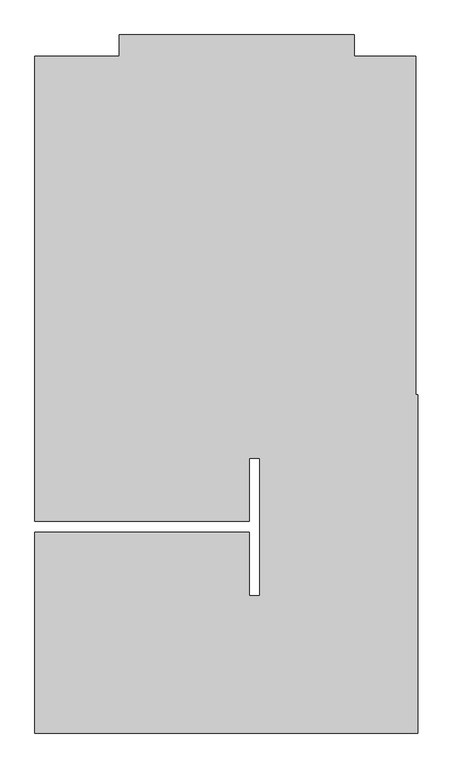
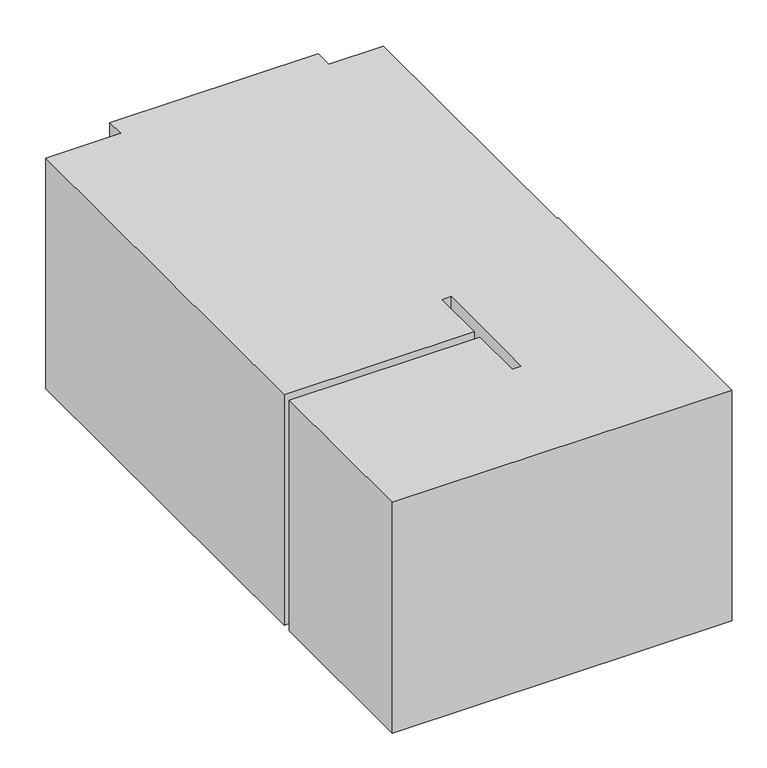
"""IFC4 building model written with IfcOpenShell, lengths in millimetres: proxy geometry."""

import ifcopenshell
import ifcopenshell.guid

model = None  # the IFC model being written
_history = None  # IfcOwnerHistory: only IFC2X3 demands one
_inside = {}  # id of a spatial element -> (the spatial element, [elements in it])
_under = {}  # id of a project, library or spatial element -> (it, [spatial elements below it])
_declared = {}  # id of a project -> (the project, [libraries it declares])
_typed = {}  # id of a type object -> (the type object, [elements of that type])
_made_of = {}  # id of a material, layer set ... -> (it, [elements and type objects made of it])


def new_model(schema):
    """Start an empty IFC model of exactly this schema.

    Asked for "IFC4X3", IfcOpenShell would pick the latest addendum, in which some entities
    have other attributes; the version numbers below select the first issue.
    IFC2X3 requires an IfcOwnerHistory on every rooted entity: one is made here for all.
    """
    global model, _history
    if schema == "IFC4X3":
        model = ifcopenshell.file(schema_version=(4, 3, 0, 0))
    else:
        model = ifcopenshell.file(schema=schema)
    _inside.clear()
    _under.clear()
    _declared.clear()
    _typed.clear()
    _made_of.clear()
    _history = None
    if model.schema == "IFC2X3":
        org = make("IfcOrganization", Name="unknown")
        user = make(
            "IfcPersonAndOrganization",
            ThePerson=make("IfcPerson", FamilyName="unknown"),
            TheOrganization=org,
        )
        app = make(
            "IfcApplication",
            ApplicationDeveloper=org,
            Version="unknown",
            ApplicationFullName="unknown",
            ApplicationIdentifier="unknown",
        )
        _history = make(
            "IfcOwnerHistory",
            OwningUser=user,
            OwningApplication=app,
            ChangeAction="ADDED",
            CreationDate=0,
        )
    return model


def make(cls, **values):
    """One entity of the class cls with the attributes given. An attribute that is None is left unset."""
    return model.create_entity(
        cls, **{name: value for name, value in values.items() if value is not None}
    )


def rooted(cls, **values):
    """An entity with a GlobalId (a new one), such as an element, a storey or a relation."""
    return make(cls, GlobalId=ifcopenshell.guid.new(), OwnerHistory=_history, **values)


def si_unit(unit_type, name, prefix=None):
    """IfcSIUnit, for example si_unit("LENGTHUNIT", "METRE", prefix="MILLI")."""
    return make("IfcSIUnit", UnitType=unit_type, Prefix=prefix, Name=name)


def assignment(units):
    """IfcUnitAssignment: the units of a project."""
    return None if units is None else make("IfcUnitAssignment", Units=units)


def point(xyz):
    """IfcCartesianPoint."""
    return None if xyz is None else make("IfcCartesianPoint", Coordinates=xyz)


def direction(xyz):
    """IfcDirection."""
    return None if xyz is None else make("IfcDirection", DirectionRatios=xyz)


def frame(location, z_axis=None, x_axis=None):
    """IfcAxis2Placement3D, a coordinate frame: its origin and axes. An axis left out is left unset."""
    return make(
        "IfcAxis2Placement3D",
        Location=point(location),
        Axis=direction(z_axis),
        RefDirection=direction(x_axis),
    )


def origin():
    """The frame at (0, 0, 0) with its axes left unset."""
    return frame((0.0, 0.0, 0.0))


def origin_with_axes():
    """The frame at (0, 0, 0) with the z axis (0, 0, 1) and the x axis (1, 0, 0) written out."""
    return frame((0.0, 0.0, 0.0), z_axis=(0.0, 0.0, 1.0), x_axis=(1.0, 0.0, 0.0))


def place(relative_to, where):
    """IfcLocalPlacement: puts the frame where relative to a parent placement (None: the world)."""
    return make(
        "IfcLocalPlacement", PlacementRelTo=relative_to, RelativePlacement=where
    )


def context(
    kind, dimensions, precision=None, world=None, true_north=None, identifier=None
):
    """IfcGeometricRepresentationContext, for example the 3D "Model" context."""
    return make(
        "IfcGeometricRepresentationContext",
        ContextIdentifier=identifier,
        ContextType=kind,
        CoordinateSpaceDimension=dimensions,
        Precision=precision,
        WorldCoordinateSystem=world,
        TrueNorth=true_north,
    )


def project(units=None, contexts=None):
    """IfcProject with its units and contexts."""
    return rooted(
        "IfcProject",
        Name="project",
        RepresentationContexts=contexts,
        UnitsInContext=assignment(units),
    )


def spatial(cls, under=None, at=None, **own):
    """A site, building, storey or space (cls), placed at a placement, below another one or the project."""
    s = rooted(cls, ObjectPlacement=at, **own)
    if under is not None:
        _under.setdefault(under.id(), (under, []))[1].append(s)
    return s


def polyline(points):
    """IfcPolyline through the points."""
    return make("IfcPolyline", Points=[point(p) for p in points])


def outline(outer, holes=None, kind="AREA"):
    """IfcArbitraryClosedProfileDef: a profile drawn as a closed curve; with holes, ...WithVoids."""
    if holes is None:
        return make("IfcArbitraryClosedProfileDef", ProfileType=kind, OuterCurve=outer)
    return make(
        "IfcArbitraryProfileDefWithVoids",
        ProfileType=kind,
        OuterCurve=outer,
        InnerCurves=holes,
    )


def extrude(swept, where, along, depth):
    """IfcExtrudedAreaSolid: the profile swept, set in the frame where, extruded along a direction by depth."""
    return make(
        "IfcExtrudedAreaSolid",
        SweptArea=swept,
        Position=where,
        ExtrudedDirection=direction(along),
        Depth=depth,
    )


def shape(context_of_items, identifier, shape_type, items):
    """IfcShapeRepresentation: the items that make up one representation, for example the "Body"."""
    return make(
        "IfcShapeRepresentation",
        ContextOfItems=context_of_items,
        RepresentationIdentifier=identifier,
        RepresentationType=shape_type,
        Items=items,
    )


def source(mapping_origin, context_of_items, identifier, shape_type, items):
    """IfcRepresentationMap: a shape defined once, which mapped items show again and again."""
    return make(
        "IfcRepresentationMap",
        MappingOrigin=mapping_origin,
        MappedRepresentation=shape(context_of_items, identifier, shape_type, items),
    )


def transform(
    local_origin,
    x_axis=None,
    y_axis=None,
    z_axis=None,
    scale=None,
    scale2=None,
    scale3=None,
    uniform=True,
):
    """IfcCartesianTransformationOperator3D, or its non-uniform kind. x_axis, y_axis, z_axis: its Axis1, 2, 3."""
    if uniform:
        return make(
            "IfcCartesianTransformationOperator3D",
            Axis1=direction(x_axis),
            Axis2=direction(y_axis),
            LocalOrigin=point(local_origin),
            Scale=scale,
            Axis3=direction(z_axis),
        )
    return make(
        "IfcCartesianTransformationOperator3DnonUniform",
        Axis1=direction(x_axis),
        Axis2=direction(y_axis),
        LocalOrigin=point(local_origin),
        Scale=scale,
        Axis3=direction(z_axis),
        Scale2=scale2,
        Scale3=scale3,
    )


def mapped(mapping_source, mapping_target):
    """IfcMappedItem: shows the shape of a source again, moved by a transform."""
    return make(
        "IfcMappedItem", MappingSource=mapping_source, MappingTarget=mapping_target
    )


def made_of(thing, what):
    """Note that an element or type object is made of a material, layer set ...; save() writes the relation."""
    if what is not None:
        _made_of.setdefault(what.id(), (what, []))[1].append(thing)
    return thing


def element(
    cls,
    number,
    at=None,
    inside=None,
    cuts=None,
    type_object=None,
    material=None,
    context=None,
    identifier="Body",
    shape_type=None,
    held_by="IfcProductDefinitionShape",
    body=None,
    shapes=None,
    **own,
):
    """One element of the class cls, such as IfcWall. Its Tag is "e" and its number.

    at: its placement. inside: the storey or other place that contains it. cuts: it is an
    opening in that element (IfcRelVoidsElement). A single representation is given by context,
    identifier, shape_type and body (its items); several are given by shapes. held_by: the class
    of the entity that holds the representations. save() writes the other relations.
    """
    e = rooted(cls, Tag="e%d" % number, ObjectPlacement=at, **own)
    if body is not None:
        shapes = [shape(context, identifier, shape_type, body)]
    if shapes is not None:
        e.Representation = make(held_by, Representations=shapes)
    if inside is not None:
        _inside.setdefault(inside.id(), (inside, []))[1].append(e)
    if cuts is not None:
        rooted(
            "IfcRelVoidsElement", RelatingBuildingElement=cuts, RelatedOpeningElement=e
        )
    if type_object is not None:
        _typed.setdefault(type_object.id(), (type_object, []))[1].append(e)
    return made_of(e, material)


def aggregate(whole, parts):
    """IfcRelAggregates: a whole, such as a stair, and the parts it consists of."""
    return rooted("IfcRelAggregates", RelatingObject=whole, RelatedObjects=parts)


def save(model, path):
    """Write the relations noted so far, then the file.

    IfcRelAggregates (storeys below a building ...), IfcRelContainedInSpatialStructure (elements
    in a storey), IfcRelDefinesByType, IfcRelAssociatesMaterial and IfcRelDeclares: one each for
    every whole, place, type object, material and project.
    """
    for whole, parts in _under.values():
        aggregate(whole, parts)
    for where, things in _inside.values():
        rooted(
            "IfcRelContainedInSpatialStructure",
            RelatedElements=things,
            RelatingStructure=where,
        )
    for kind, things in _typed.values():
        rooted("IfcRelDefinesByType", RelatedObjects=things, RelatingType=kind)
    for what, things in _made_of.values():
        rooted("IfcRelAssociatesMaterial", RelatedObjects=things, RelatingMaterial=what)
    for by, libraries in _declared.values():
        rooted("IfcRelDeclares", RelatingContext=by, RelatedDefinitions=libraries)
    model.write(path)


def generic_models_012e1348(model_context):
    return source(origin(), model_context, "Body", "SweptSolid", [
        extrude(outline(polyline([(-105044.9987767, -17499.999999), (-108663.1304765, -17499.999999), (-108663.1304765, -15599.999999), (-106636.1304765, -15599.999999), (-106636.1304765, -16199.999999), (-106536.1304765, -16199.999999), (-106536.1304765, -14899.999999), (-106636.1304765, -14899.999999), (-106636.1304765, -15499.999999), (-108663.1304765, -15499.999999), (-108663.1304765, -11099.999999), (-107866.1304765, -11099.999999), (-107866.1304765, -10899.999999), (-105644.9987767, -10899.999999), (-105644.9987767, -11099.999999), (-105064.9987767, -11099.999999), (-105064.9987767, -14299.999999), (-105044.9987767, -14299.999999), (-105044.9987767, -17499.999999)])), origin_with_axes(), (0.0, 0.0, 1.0), 2600.0),
    ])


if __name__ == "__main__":
    model = new_model("IFC4")
    model_context = context("Model", 3, world=origin())
    ifc_project = project(units=[si_unit("LENGTHUNIT", "METRE", prefix="MILLI")], contexts=[model_context])
    site = spatial("IfcSite", under=ifc_project)
    building = spatial("IfcBuilding", under=site)
    placement = place(None, origin())
    generic_models_shape = generic_models_012e1348(model_context)
    element("IfcBuildingElementProxy", 1, Name="Generic Models", at=placement, inside=building, context=model_context, shape_type="MappedRepresentation", body=[
        mapped(generic_models_shape, transform((0.0, 0.0, 0.0), x_axis=(1.0, 0.0, 0.0), y_axis=(0.0, 1.0, 0.0), z_axis=(0.0, 0.0, 1.0))),
    ])
    save(model, "model.ifc")
